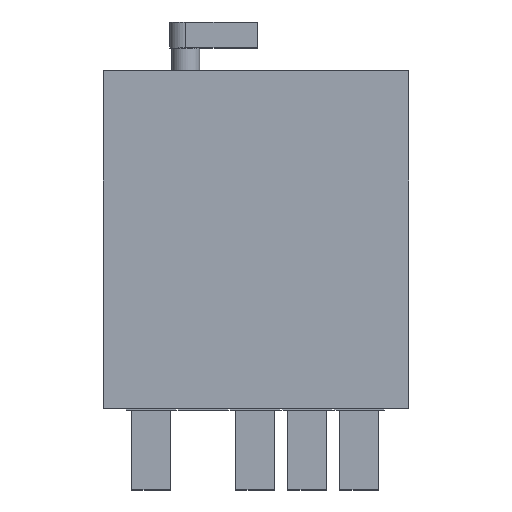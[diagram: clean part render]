
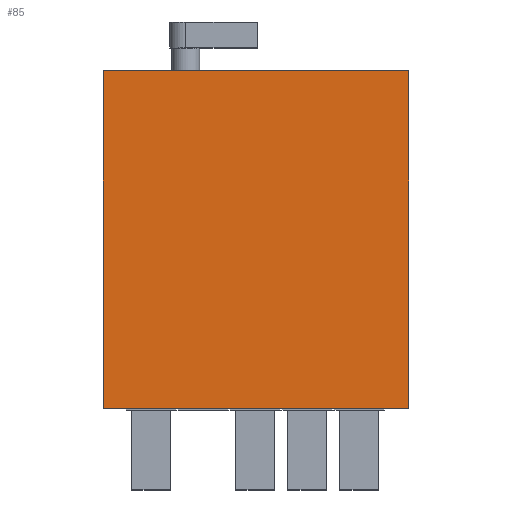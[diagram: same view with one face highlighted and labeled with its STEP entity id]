
A CAD part, top view. The second image highlights one B-rep face of the part: STEP entity #85.
In plain terms, the highlighted planar face has unit normal (0, 0, 1).
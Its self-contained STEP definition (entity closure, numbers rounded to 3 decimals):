
#85=ADVANCED_FACE('',(#197),#1009,.T.);
#197=FACE_OUTER_BOUND('',#332,.F.);
#332=EDGE_LOOP('',(#470,#471,#472,#473));
#470=ORIENTED_EDGE('',*,*,#1594,.T.);
#471=ORIENTED_EDGE('',*,*,#1545,.T.);
#472=ORIENTED_EDGE('',*,*,#1596,.T.);
#473=ORIENTED_EDGE('',*,*,#1595,.T.);
#1009=PLANE('',#2092);
#1097=LINE('',#2948,#1320);
#1142=LINE('',#2997,#1365);
#1143=LINE('',#2998,#1366);
#1144=LINE('',#2999,#1367);
#1320=VECTOR('',#2222,94.);
#1365=VECTOR('',#2275,104.);
#1366=VECTOR('',#2276,94.);
#1367=VECTOR('',#2277,104.);
#1545=EDGE_CURVE('',#2035,#2033,#1097,.T.);
#1594=EDGE_CURVE('',#1984,#2035,#1142,.T.);
#1595=EDGE_CURVE('',#1983,#1984,#1143,.T.);
#1596=EDGE_CURVE('',#2033,#1983,#1144,.T.);
#1983=VERTEX_POINT('',#2887);
#1984=VERTEX_POINT('',#2888);
#2033=VERTEX_POINT('',#2937);
#2035=VERTEX_POINT('',#2939);
#2092=AXIS2_PLACEMENT_3D('',#3203,#2518,#2519);
#2222=DIRECTION('',(1.,0.,0.));
#2275=DIRECTION('',(0.,1.,0.));
#2276=DIRECTION('',(-1.,0.,0.));
#2277=DIRECTION('',(0.,-1.,0.));
#2518=DIRECTION('',(0.,0.,1.));
#2519=DIRECTION('',(1.,0.,0.));
#2887=CARTESIAN_POINT('',(47.,-52.,28.));
#2888=CARTESIAN_POINT('',(-47.,-52.,28.));
#2937=CARTESIAN_POINT('',(47.,52.,28.));
#2939=CARTESIAN_POINT('',(-47.,52.,28.));
#2948=CARTESIAN_POINT('',(-47.,52.,28.));
#2997=CARTESIAN_POINT('',(-47.,-52.,28.));
#2998=CARTESIAN_POINT('',(47.,-52.,28.));
#2999=CARTESIAN_POINT('',(47.,52.,28.));
#3203=CARTESIAN_POINT('',(-48.04,-53.04,28.));
